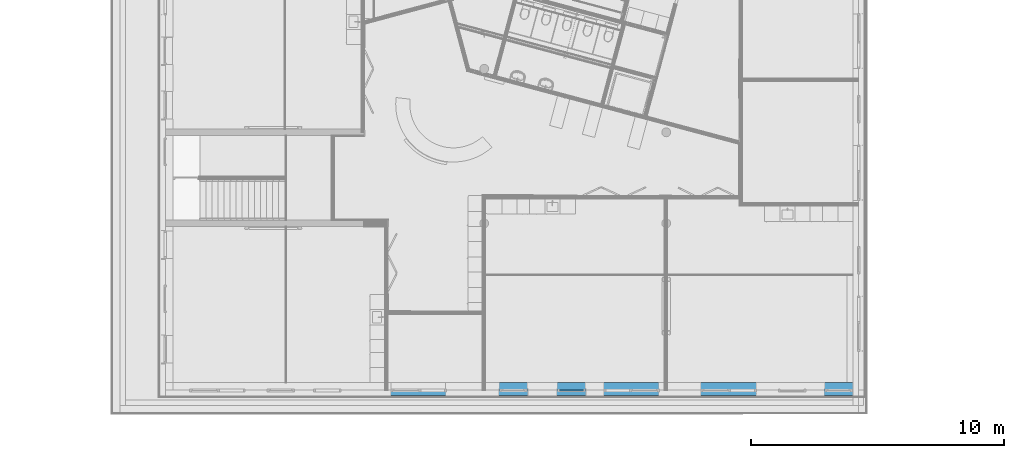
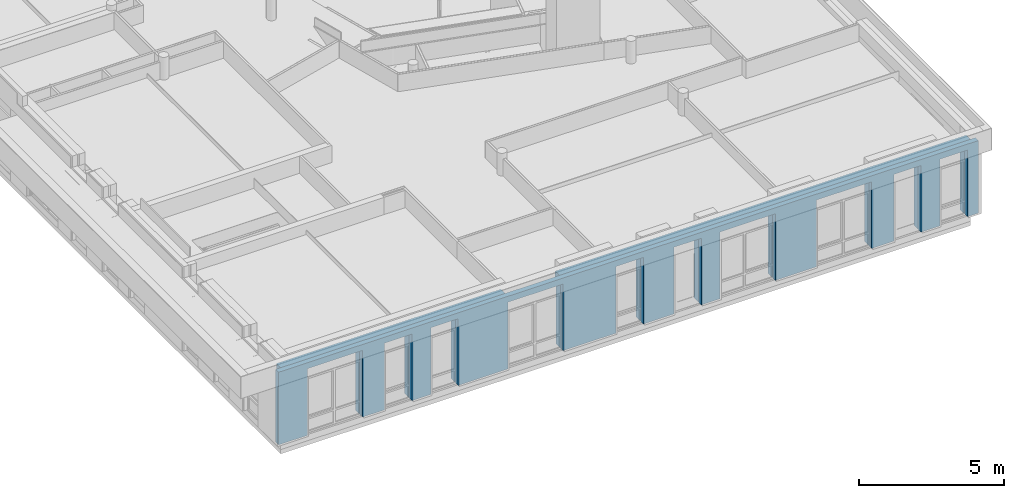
# One storey, part 50 of 167: 2 building element parts, 11 openings, 1 element without a shape of its own.
"""IFC2X3 building model written with IfcOpenShell, lengths in millimetres."""

from ifc_helpers import new_model, entity, si_unit, converted_unit, derived_unit, money_unit, direction, frame, origin_with_axes, place, context, subcontext, project, spatial, faceted_brep, material, type_object, element, aggregate, save


model = new_model("IFC2X3")

# Units and contexts
model_context = context("Model", 3, precision=0.01, world=origin_with_axes(), true_north=direction((0.0, 1.0)))
plan_context = context("Plan", 3, precision=0.01, world=origin_with_axes(), true_north=direction((0.0, 1.0)))
body_context = subcontext(model_context, "Body", "Model", "MODEL_VIEW")
ifc_project = project(units=[si_unit("LENGTHUNIT", "METRE", prefix="MILLI"), si_unit("AREAUNIT", "SQUARE_METRE"), si_unit("VOLUMEUNIT", "CUBIC_METRE"), converted_unit("PLANEANGLEUNIT", "DEGREE", entity("IfcPlaneAngleMeasure", 0.0174532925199), si_unit("PLANEANGLEUNIT", "RADIAN"), dimensions=[0, 0, 0, 0, 0, 0, 0]), si_unit("SOLIDANGLEUNIT", "STERADIAN"), money_unit("EUR"), converted_unit("TIMEUNIT", "Year", entity("IfcTimeMeasure", 31556926.0), si_unit("TIMEUNIT", "SECOND"), dimensions=[0, 0, 1, 0, 0, 0, 0]), si_unit("MASSUNIT", "GRAM", prefix="KILO"), si_unit("THERMODYNAMICTEMPERATUREUNIT", "DEGREE_CELSIUS"), si_unit("LUMINOUSINTENSITYUNIT", "LUMEN"), si_unit("ENERGYUNIT", "JOULE", prefix="MEGA"), derived_unit("THERMALCONDUCTANCEUNIT", [(si_unit("POWERUNIT", "WATT"), 1), (si_unit("LENGTHUNIT", "METRE"), -1), (si_unit("THERMODYNAMICTEMPERATUREUNIT", "KELVIN"), -1)]), derived_unit("SPECIFICHEATCAPACITYUNIT", [(si_unit("ENERGYUNIT", "JOULE"), 1), (si_unit("MASSUNIT", "GRAM", prefix="KILO"), -1), (si_unit("THERMODYNAMICTEMPERATUREUNIT", "KELVIN"), -1)]), derived_unit("MASSDENSITYUNIT", [(si_unit("MASSUNIT", "GRAM", prefix="KILO"), 1), (si_unit("VOLUMEUNIT", "CUBIC_METRE"), -1)])], contexts=[model_context, plan_context])

# Site, building, storey
site_placement = place(None, origin_with_axes())
site = spatial("IfcSite", under=ifc_project, at=site_placement, Name="Site", CompositionType="ELEMENT")
building_placement = place(site_placement, origin_with_axes())
building = spatial("IfcBuilding", under=site, at=building_placement, Name="Naam gebouw", CompositionType="ELEMENT")
storey_placement = place(building_placement, origin_with_axes())
storey = spatial("IfcBuildingStorey", under=building, at=storey_placement, Name="Begane grond", CompositionType="ELEMENT", Elevation=0.0)

# Wall, openings, building element parts
wall_type = type_object("IfcWallType", Name="_TenW_21_Spouwmuur ht-kz-300- RC 4,7 574", PredefinedType="NOTDEFINED")
wall_placement = place(storey_placement, frame((1800.0, 600.0, 0.0), z_axis=(0.0, 0.0, 1.0), x_axis=(1.0, 0.0, 0.0)))
wall = element("IfcWall", 1, at=wall_placement, inside=storey, type_object=wall_type, Name="21_Wand_Wand-x")
opening_1_placement = place(wall_placement, frame((4557.47405593, 0.0, 0.0), z_axis=(0.0, 0.0, 1.0), x_axis=(1.0, 0.0, 0.0)))
element("IfcOpeningElement", 2, at=opening_1_placement, cuts=wall, Name="31_Raam_He-12s", context=body_context, shape_type="Brep", body=[
    faceted_brep([(-542.0, -74.0, 0.0), (-542.0, -74.0, 2800.0), (-542.0, 874.0, 2800.0), (-542.0, 874.0, 0.0), (542.0, -74.0, 0.0), (542.0, -74.0, 2800.0), (542.0, 874.0, 2800.0), (542.0, 874.0, 0.0)], [[[0, 1, 2, 3]], [[0, 4, 5, 1]], [[1, 5, 6, 2]], [[3, 2, 6, 7]], [[4, 0, 3, 7]], [[5, 4, 7, 6]]]),
    faceted_brep([(-542.0, -74.0, 2800.0), (-542.0, -74.0, 0.0), (-542.0, -848.0, 0.0), (-542.0, -848.0, 2800.0), (542.0, -74.0, 2800.0), (542.0, -74.0, 0.0), (542.0, -848.0, 0.0), (542.0, -848.0, 2800.0)], [[[0, 1, 2, 3]], [[0, 4, 5, 1]], [[1, 5, 6, 2]], [[3, 2, 6, 7]], [[4, 0, 3, 7]], [[5, 4, 7, 6]]]),
])
opening_2_placement = place(wall_placement, frame((6395.75405593, 0.0, 0.0), z_axis=(0.0, 0.0, 1.0), x_axis=(1.0, 0.0, 0.0)))
element("IfcOpeningElement", 3, at=opening_2_placement, cuts=wall, Name="31_Raam_He-15", context=body_context, shape_type="Brep", body=[
    faceted_brep([(-542.0, -74.0, 0.0), (-542.0, -74.0, 2800.0), (-542.0, 874.0, 2800.0), (-542.0, 874.0, 0.0), (542.0, -74.0, 0.0), (542.0, -74.0, 2800.0), (542.0, 874.0, 2800.0), (542.0, 874.0, 0.0)], [[[0, 1, 2, 3]], [[0, 4, 5, 1]], [[1, 5, 6, 2]], [[3, 2, 6, 7]], [[4, 0, 3, 7]], [[5, 4, 7, 6]]]),
    faceted_brep([(-542.0, -74.0, 2800.0), (-542.0, -74.0, 0.0), (-542.0, -848.0, 0.0), (-542.0, -848.0, 2800.0), (542.0, -74.0, 2800.0), (542.0, -74.0, 0.0), (542.0, -848.0, 0.0), (542.0, -848.0, 2800.0)], [[[0, 1, 2, 3]], [[0, 4, 5, 1]], [[1, 5, 6, 2]], [[3, 2, 6, 7]], [[4, 0, 3, 7]], [[5, 4, 7, 6]]]),
])
opening_3_placement = place(wall_placement, frame((13748.8740559, 0.0, 0.0), z_axis=(0.0, 0.0, 1.0), x_axis=(1.0, 0.0, 0.0)))
element("IfcOpeningElement", 4, at=opening_3_placement, cuts=wall, Name="31_Raam_He-12", context=body_context, shape_type="Brep", body=[
    faceted_brep([(-542.0, -74.0, 0.0), (-542.0, -74.0, 2800.0), (-542.0, 874.0, 2800.0), (-542.0, 874.0, 0.0), (542.0, -74.0, 0.0), (542.0, -74.0, 2800.0), (542.0, 874.0, 2800.0), (542.0, 874.0, 0.0)], [[[0, 1, 2, 3]], [[0, 4, 5, 1]], [[1, 5, 6, 2]], [[3, 2, 6, 7]], [[4, 0, 3, 7]], [[5, 4, 7, 6]]]),
    faceted_brep([(-542.0, -74.0, 2800.0), (-542.0, -74.0, 0.0), (-542.0, -848.0, 0.0), (-542.0, -848.0, 2800.0), (542.0, -74.0, 2800.0), (542.0, -74.0, 0.0), (542.0, -848.0, 0.0), (542.0, -848.0, 2800.0)], [[[0, 1, 2, 3]], [[0, 4, 5, 1]], [[1, 5, 6, 2]], [[3, 2, 6, 7]], [[4, 0, 3, 7]], [[5, 4, 7, 6]]]),
])
opening_4_placement = place(wall_placement, frame((26616.8340559, 0.0, 0.0), z_axis=(0.0, 0.0, 1.0), x_axis=(1.0, 0.0, 0.0)))
element("IfcOpeningElement", 5, at=opening_4_placement, cuts=wall, Name="31_Raam_He-12", context=body_context, shape_type="Brep", body=[
    faceted_brep([(-542.0, -74.0, 0.0), (-542.0, -74.0, 2800.0), (-542.0, 874.0, 2800.0), (-542.0, 874.0, 0.0), (542.0, -74.0, 0.0), (542.0, -74.0, 2800.0), (542.0, 874.0, 2800.0), (542.0, 874.0, 0.0)], [[[0, 1, 2, 3]], [[0, 4, 5, 1]], [[1, 5, 6, 2]], [[3, 2, 6, 7]], [[4, 0, 3, 7]], [[5, 4, 7, 6]]]),
    faceted_brep([(-542.0, -74.0, 2800.0), (-542.0, -74.0, 0.0), (-542.0, -848.0, 0.0), (-542.0, -848.0, 2800.0), (542.0, -74.0, 2800.0), (542.0, -74.0, 0.0), (542.0, -848.0, 0.0), (542.0, -848.0, 2800.0)], [[[0, 1, 2, 3]], [[0, 4, 5, 1]], [[1, 5, 6, 2]], [[3, 2, 6, 7]], [[4, 0, 3, 7]], [[5, 4, 7, 6]]]),
])
opening_5_placement = place(wall_placement, frame((2044.87905593, 0.0, 0.0), z_axis=(0.0, 0.0, 1.0), x_axis=(1.0, 0.0, 0.0)))
element("IfcOpeningElement", 6, at=opening_5_placement, cuts=wall, Name="31_Raam_He-11", context=body_context, shape_type="Brep", body=[
    faceted_brep([(-1095.0, -154.0, 2800.0), (-1095.0, -69.0, 2800.0), (1095.0, -69.0, 2800.0), (1095.0, -154.0, 2800.0), (-1095.0, -154.0, 2885.0), (-1095.0, -69.0, 2885.0), (1095.0, -69.0, 2885.0), (1095.0, -154.0, 2885.0)], [[[0, 1, 2, 3]], [[0, 4, 5, 1]], [[1, 5, 6, 2]], [[3, 2, 6, 7]], [[4, 0, 3, 7]], [[5, 4, 7, 6]]]),
    faceted_brep([(-1095.0, -74.0, 0.0), (-1095.0, -74.0, 2800.0), (-1095.0, 874.0, 2800.0), (-1095.0, 874.0, 0.0), (1095.0, -74.0, 0.0), (1095.0, -74.0, 2800.0), (1095.0, 874.0, 2800.0), (1095.0, 874.0, 0.0)], [[[0, 1, 2, 3]], [[0, 4, 5, 1]], [[1, 5, 6, 2]], [[3, 2, 6, 7]], [[4, 0, 3, 7]], [[5, 4, 7, 6]]]),
    faceted_brep([(-1095.0, -74.0, 2800.0), (-1095.0, -74.0, 0.0), (-1095.0, -848.0, 0.0), (-1095.0, -848.0, 2800.0), (1095.0, -74.0, 2800.0), (1095.0, -74.0, 0.0), (1095.0, -848.0, 0.0), (1095.0, -848.0, 2800.0)], [[[0, 1, 2, 3]], [[0, 4, 5, 1]], [[1, 5, 6, 2]], [[3, 2, 6, 7]], [[4, 0, 3, 7]], [[5, 4, 7, 6]]]),
])
opening_6_placement = place(wall_placement, frame((22265.9340559, 0.0, 0.0), z_axis=(0.0, 0.0, 1.0), x_axis=(1.0, 0.0, 0.0)))
element("IfcOpeningElement", 7, at=opening_6_placement, cuts=wall, Name="31_Raam_He-11", context=body_context, shape_type="Brep", body=[
    faceted_brep([(-1095.0, -154.0, 2800.0), (-1095.0, -69.0, 2800.0), (1095.0, -69.0, 2800.0), (1095.0, -154.0, 2800.0), (-1095.0, -154.0, 2885.0), (-1095.0, -69.0, 2885.0), (1095.0, -69.0, 2885.0), (1095.0, -154.0, 2885.0)], [[[0, 1, 2, 3]], [[0, 4, 5, 1]], [[1, 5, 6, 2]], [[3, 2, 6, 7]], [[4, 0, 3, 7]], [[5, 4, 7, 6]]]),
    faceted_brep([(-1095.0, -74.0, 0.0), (-1095.0, -74.0, 2800.0), (-1095.0, 874.0, 2800.0), (-1095.0, 874.0, 0.0), (1095.0, -74.0, 0.0), (1095.0, -74.0, 2800.0), (1095.0, 874.0, 2800.0), (1095.0, 874.0, 0.0)], [[[0, 1, 2, 3]], [[0, 4, 5, 1]], [[1, 5, 6, 2]], [[3, 2, 6, 7]], [[4, 0, 3, 7]], [[5, 4, 7, 6]]]),
    faceted_brep([(-1095.0, -74.0, 2800.0), (-1095.0, -74.0, 0.0), (-1095.0, -848.0, 0.0), (-1095.0, -848.0, 2800.0), (1095.0, -74.0, 2800.0), (1095.0, -74.0, 0.0), (1095.0, -848.0, 0.0), (1095.0, -848.0, 2800.0)], [[[0, 1, 2, 3]], [[0, 4, 5, 1]], [[1, 5, 6, 2]], [[3, 2, 6, 7]], [[4, 0, 3, 7]], [[5, 4, 7, 6]]]),
])
opening_7_placement = place(wall_placement, frame((10010.7590559, 0.0, 0.0), z_axis=(0.0, 0.0, 1.0), x_axis=(1.0, 0.0, 0.0)))
element("IfcOpeningElement", 8, at=opening_7_placement, cuts=wall, Name="31_Raam_He-11", context=body_context, shape_type="Brep", body=[
    faceted_brep([(-1095.0, -154.0, 2800.0), (-1095.0, -69.0, 2800.0), (1095.0, -69.0, 2800.0), (1095.0, -154.0, 2800.0), (-1095.0, -154.0, 2885.0), (-1095.0, -69.0, 2885.0), (1095.0, -69.0, 2885.0), (1095.0, -154.0, 2885.0)], [[[0, 1, 2, 3]], [[0, 4, 5, 1]], [[1, 5, 6, 2]], [[3, 2, 6, 7]], [[4, 0, 3, 7]], [[5, 4, 7, 6]]]),
    faceted_brep([(-1095.0, -74.0, 0.0), (-1095.0, -74.0, 2800.0), (-1095.0, 874.0, 2800.0), (-1095.0, 874.0, 0.0), (1095.0, -74.0, 0.0), (1095.0, -74.0, 2800.0), (1095.0, 874.0, 2800.0), (1095.0, 874.0, 0.0)], [[[0, 1, 2, 3]], [[0, 4, 5, 1]], [[1, 5, 6, 2]], [[3, 2, 6, 7]], [[4, 0, 3, 7]], [[5, 4, 7, 6]]]),
    faceted_brep([(-1095.0, -74.0, 2800.0), (-1095.0, -74.0, 0.0), (-1095.0, -848.0, 0.0), (-1095.0, -848.0, 2800.0), (1095.0, -74.0, 2800.0), (1095.0, -74.0, 0.0), (1095.0, -848.0, 0.0), (1095.0, -848.0, 2800.0)], [[[0, 1, 2, 3]], [[0, 4, 5, 1]], [[1, 5, 6, 2]], [[3, 2, 6, 7]], [[4, 0, 3, 7]], [[5, 4, 7, 6]]]),
])
opening_8_placement = place(wall_placement, frame((18436.2090559, 0.0, 0.0), z_axis=(0.0, 0.0, 1.0), x_axis=(1.0, 0.0, 0.0)))
element("IfcOpeningElement", 9, at=opening_8_placement, cuts=wall, Name="31_Raam_He-11s", context=body_context, shape_type="Brep", body=[
    faceted_brep([(-1095.0, -154.0, 2800.0), (-1095.0, -69.0, 2800.0), (1095.0, -69.0, 2800.0), (1095.0, -154.0, 2800.0), (-1095.0, -154.0, 2885.0), (-1095.0, -69.0, 2885.0), (1095.0, -69.0, 2885.0), (1095.0, -154.0, 2885.0)], [[[0, 1, 2, 3]], [[0, 4, 5, 1]], [[1, 5, 6, 2]], [[3, 2, 6, 7]], [[4, 0, 3, 7]], [[5, 4, 7, 6]]]),
    faceted_brep([(1095.0, 874.0, 0.0), (1095.0, 874.0, 2800.0), (1095.0, -74.0, 2800.0), (1095.0, -74.0, 0.0), (-1095.0, 874.0, 0.0), (-1095.0, 874.0, 2800.0), (-1095.0, -74.0, 2800.0), (-1095.0, -74.0, 0.0)], [[[0, 1, 2, 3]], [[0, 4, 5, 1]], [[1, 5, 6, 2]], [[3, 2, 6, 7]], [[4, 0, 3, 7]], [[5, 4, 7, 6]]]),
    faceted_brep([(1095.0, -848.0, 2800.0), (1095.0, -848.0, 0.0), (1095.0, -74.0, 0.0), (1095.0, -74.0, 2800.0), (-1095.0, -848.0, 2800.0), (-1095.0, -848.0, 0.0), (-1095.0, -74.0, 0.0), (-1095.0, -74.0, 2800.0)], [[[0, 1, 2, 3]], [[0, 4, 5, 1]], [[1, 5, 6, 2]], [[3, 2, 6, 7]], [[4, 0, 3, 7]], [[5, 4, 7, 6]]]),
])
opening_9_placement = place(wall_placement, frame((16047.4640559, 0.0, 0.0), z_axis=(0.0, 0.0, 1.0), x_axis=(1.0, 0.0, 0.0)))
element("IfcOpeningElement", 10, at=opening_9_placement, cuts=wall, Name="32_Deur_He-06", context=body_context, shape_type="Brep", body=[
    faceted_brep([(-542.0, 874.0, 2800.0), (-542.0, 874.0, 0.0), (-542.0, -74.0, 0.0), (-542.0, -74.0, 2800.0), (542.0, 874.0, 2800.0), (542.0, 874.0, 0.0), (542.0, -74.0, 0.0), (542.0, -74.0, 2800.0)], [[[0, 1, 2, 3]], [[0, 4, 5, 1]], [[1, 5, 6, 2]], [[3, 2, 6, 7]], [[4, 0, 3, 7]], [[5, 4, 7, 6]]]),
    faceted_brep([(-542.0, -848.0, 0.0), (-542.0, -848.0, 2800.0), (-542.0, -74.0, 2800.0), (-542.0, -74.0, 0.0), (542.0, -848.0, 0.0), (542.0, -848.0, 2800.0), (542.0, -74.0, 2800.0), (542.0, -74.0, 0.0)], [[[0, 1, 2, 3]], [[0, 4, 5, 1]], [[1, 5, 6, 2]], [[3, 2, 6, 7]], [[4, 0, 3, 7]], [[5, 4, 7, 6]]]),
])
opening_10_placement = place(wall_placement, frame((24779.2940559, 0.0, 0.0), z_axis=(0.0, 0.0, 1.0), x_axis=(1.0, 0.0, 0.0)))
element("IfcOpeningElement", 11, at=opening_10_placement, cuts=wall, Name="32_Deur_He-06", context=body_context, shape_type="Brep", body=[
    faceted_brep([(-542.0, 874.0, 2800.0), (-542.0, 874.0, 0.0), (-542.0, -74.0, 0.0), (-542.0, -74.0, 2800.0), (542.0, 874.0, 2800.0), (542.0, 874.0, 0.0), (542.0, -74.0, 0.0), (542.0, -74.0, 2800.0)], [[[0, 1, 2, 3]], [[0, 4, 5, 1]], [[1, 5, 6, 2]], [[3, 2, 6, 7]], [[4, 0, 3, 7]], [[5, 4, 7, 6]]]),
    faceted_brep([(-542.0, -848.0, 0.0), (-542.0, -848.0, 2800.0), (-542.0, -74.0, 2800.0), (-542.0, -74.0, 0.0), (542.0, -848.0, 0.0), (542.0, -848.0, 2800.0), (542.0, -74.0, 2800.0), (542.0, -74.0, 0.0)], [[[0, 1, 2, 3]], [[0, 4, 5, 1]], [[1, 5, 6, 2]], [[3, 2, 6, 7]], [[4, 0, 3, 7]], [[5, 4, 7, 6]]]),
])
opening_11_placement = place(wall_placement, frame((-1800.0, -600.0, 0.0), z_axis=(0.0, 0.0, 1.0), x_axis=(1.0, 0.0, 0.0)))
element("IfcOpeningElement", 12, at=opening_11_placement, cuts=wall, Name="_Lege opening_Doorvoer-x", context=body_context, shape_type="Brep", body=[
    faceted_brep([(10715.7590559, 600.0, 2800.0), (10715.7590559, 600.0, 3050.0), (10715.7590559, 1474.0, 3050.0), (10715.7590559, 1474.0, 2800.0), (12875.6790559, 600.0, 2800.0), (12875.6790559, 600.0, 3050.0), (12875.6790559, 1474.0, 3050.0), (12875.6790559, 1474.0, 2800.0)], [[[0, 1, 2, 3]], [[0, 4, 5, 1]], [[1, 5, 6, 2]], [[3, 2, 6, 7]], [[4, 0, 3, 7]], [[5, 4, 7, 6]]]),
])
ifc_material_1 = material(Name="Steen - Kalkzandsteen C")
building_element_part_1_placement = place(wall_placement, origin_with_axes())
building_element_part_1 = element("IfcBuildingElementPart", 13, at=building_element_part_1_placement, material=ifc_material_1, Name="Steen - Kalkzandsteen C", context=body_context, shape_type="Brep", body=[
    faceted_brep([(24237.2940559, 300.0, 2800.0), (24237.2940559, 300.0, 0.0), (23360.9340559, 300.0, 0.0), (23360.9340559, 300.0, 2800.0), (21170.9340559, 300.0, 2800.0), (21170.9340559, 300.0, 0.0), (19531.2090559, 300.0, 0.0), (19531.2090559, 300.0, 2800.0), (17341.2090559, 300.0, 2800.0), (17341.2090559, 300.0, 0.0), (16589.4640559, 300.0, 0.0), (16589.4640559, 300.0, 2800.0), (15505.4640559, 300.0, 2800.0), (15505.4640559, 300.0, 0.0), (14290.8740559, 300.0, 0.0), (14290.8740559, 300.0, 2800.0), (13206.8740559, 300.0, 2800.0), (13206.8740559, 300.0, 0.0), (11105.7590559, 300.0, 0.0), (11105.7590559, 300.0, 2800.0), (11075.6790559, 300.0, 2800.0), (11075.6790559, 300.0, 3050.0), (27400.0, 300.0, 3050.0), (27400.0, 300.0, 0.0), (27158.8340559, 300.0, 0.0), (27158.8340559, 300.0, 2800.0), (26074.8340559, 300.0, 2800.0), (26074.8340559, 300.0, 0.0), (25321.2940559, 300.0, 0.0), (25321.2940559, 300.0, 2800.0), (24237.2940559, 0.0, 2800.0), (24237.2940559, 0.0, 0.0), (23360.9340559, 0.0, 0.0), (23360.9340559, 0.0, 2800.0), (21170.9340559, 0.0, 2800.0), (21170.9340559, 0.0, 0.0), (19531.2090559, 0.0, 0.0), (19531.2090559, 0.0, 2800.0), (17341.2090559, 0.0, 2800.0), (17341.2090559, 0.0, 0.0), (16589.4640559, 0.0, 0.0), (16589.4640559, 0.0, 2800.0), (15505.4640559, 0.0, 2800.0), (15505.4640559, 0.0, 0.0), (14290.8740559, 0.0, 0.0), (14290.8740559, 0.0, 2800.0), (13206.8740559, 0.0, 2800.0), (13206.8740559, 0.0, 0.0), (11105.7590559, 0.0, 0.0), (11105.7590559, 0.0, 2800.0), (11075.6790559, 0.0, 2800.0), (11075.6790559, 0.0, 3050.0), (27400.0, 0.0, 3050.0), (27400.0, 0.0, 0.0), (27158.8340559, 0.0, 0.0), (27158.8340559, 0.0, 2800.0), (26074.8340559, 0.0, 2800.0), (26074.8340559, 0.0, 0.0), (25321.2940559, 0.0, 0.0), (25321.2940559, 0.0, 2800.0)], [[[0, 1, 2, 3, 4, 5, 6, 7, 8, 9, 10, 11, 12, 13, 14, 15, 16, 17, 18, 19, 20, 21, 22, 23, 24, 25, 26, 27, 28, 29]], [[1, 0, 30, 31]], [[1, 31, 32, 2]], [[3, 2, 32, 33]], [[4, 3, 33, 34]], [[5, 4, 34, 35]], [[5, 35, 36, 6]], [[36, 37, 7, 6]], [[37, 38, 8, 7]], [[38, 39, 9, 8]], [[10, 9, 39, 40]], [[10, 40, 41, 11]], [[11, 41, 42, 12]], [[12, 42, 43, 13]], [[43, 44, 14, 13]], [[45, 15, 14, 44]], [[46, 16, 15, 45]], [[47, 17, 16, 46]], [[47, 48, 18, 17]], [[49, 19, 18, 48]], [[50, 20, 19, 49]], [[21, 20, 50, 51]], [[21, 51, 52, 22]], [[22, 52, 53, 23]], [[23, 53, 54, 24]], [[54, 55, 25, 24]], [[55, 56, 26, 25]], [[56, 57, 27, 26]], [[58, 28, 27, 57]], [[29, 28, 58, 59]], [[0, 29, 59, 30]], [[59, 58, 57, 56, 55, 54, 53, 52, 51, 50, 49, 48, 47, 46, 45, 44, 43, 42, 41, 40, 39, 38, 37, 36, 35, 34, 33, 32, 31, 30]]]),
    faceted_brep([(8915.75905593, 300.0, 3050.0), (8915.75905593, 0.0, 3050.0), (8915.75905593, 0.0, 2800.0), (8915.75905593, 300.0, 2800.0), (0.0, 300.0, 3050.0), (0.0, 0.0, 3050.0), (5099.47405593, 0.0, 2800.0), (5099.47405593, 0.0, 0.0), (5853.75405593, 0.0, 0.0), (5853.75405593, 0.0, 2800.0), (6937.75405593, 0.0, 2800.0), (6937.75405593, 0.0, 0.0), (8915.75905593, 0.0, 0.0), (0.0, 0.0, 0.0), (949.879055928, 0.0, 0.0), (949.879055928, 0.0, 2800.0), (3139.87905593, 0.0, 2800.0), (3139.87905593, 0.0, 0.0), (4015.47405593, 0.0, 0.0), (4015.47405593, 0.0, 2800.0), (8915.75905593, 300.0, 0.0), (3139.87905593, 300.0, 2800.0), (949.879055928, 300.0, 2800.0), (949.879055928, 300.0, 0.0), (0.0, 300.0, 0.0), (6937.75405593, 300.0, 0.0), (6937.75405593, 300.0, 2800.0), (5853.75405593, 300.0, 2800.0), (5853.75405593, 300.0, 0.0), (5099.47405593, 300.0, 0.0), (5099.47405593, 300.0, 2800.0), (4015.47405593, 300.0, 2800.0), (4015.47405593, 300.0, 0.0), (3139.87905593, 300.0, 0.0)], [[[0, 1, 2, 3]], [[4, 5, 1, 0]], [[6, 7, 8, 9, 10, 11, 12, 2, 1, 5, 13, 14, 15, 16, 17, 18, 19]], [[2, 12, 20, 3]], [[21, 22, 23, 24, 4, 0, 3, 20, 25, 26, 27, 28, 29, 30, 31, 32, 33]], [[5, 4, 24, 13]], [[30, 29, 7, 6]], [[29, 28, 8, 7]], [[8, 28, 27, 9]], [[9, 27, 26, 10]], [[10, 26, 25, 11]], [[11, 25, 20, 12]], [[23, 14, 13, 24]], [[23, 22, 15, 14]], [[22, 21, 16, 15]], [[21, 33, 17, 16]], [[17, 33, 32, 18]], [[32, 31, 19, 18]], [[31, 30, 6, 19]]]),
])
ifc_material_2 = material(Name="Isolatie - Steenwol zacht")
building_element_part_2_placement = place(wall_placement, origin_with_axes())
building_element_part_2 = element("IfcBuildingElementPart", 14, at=building_element_part_2_placement, material=ifc_material_2, Name="Isolatie - Steenwol zacht", context=body_context, shape_type="Brep", body=[
    faceted_brep([(24237.2940559, 0.0, 2800.0), (24237.2940559, 0.0, 0.0), (23360.9340559, 0.0, 0.0), (23360.9340559, 0.0, 2800.0), (21170.9340559, 0.0, 2800.0), (21170.9340559, 0.0, 0.0), (19531.2090559, 0.0, 0.0), (19531.2090559, 0.0, 2800.0), (17341.2090559, 0.0, 2800.0), (17341.2090559, 0.0, 0.0), (16589.4640559, 0.0, 0.0), (16589.4640559, 0.0, 2800.0), (15505.4640559, 0.0, 2800.0), (15505.4640559, 0.0, 0.0), (14290.8740559, 0.0, 0.0), (14290.8740559, 0.0, 2800.0), (13206.8740559, 0.0, 2800.0), (13206.8740559, 0.0, 0.0), (11105.7590559, 0.0, 0.0), (11105.7590559, 0.0, 2800.0), (8915.75905593, 0.0, 2800.0), (8915.75905593, 0.0, 0.0), (6937.75405593, 0.0, 0.0), (6937.75405593, 0.0, 2800.0), (5853.75405593, 0.0, 2800.0), (5853.75405593, 0.0, 0.0), (5099.47405593, 0.0, 0.0), (5099.47405593, 0.0, 2800.0), (4015.47405593, 0.0, 2800.0), (4015.47405593, 0.0, 0.0), (3139.87905593, 0.0, 0.0), (3139.87905593, 0.0, 2800.0), (949.879055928, 0.0, 2800.0), (949.879055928, 0.0, 0.0), (-200.0, 0.0, 0.0), (-200.0, 0.0, 3050.0), (27600.0, 0.0, 3050.0), (27600.0, 0.0, 0.0), (27158.8340559, 0.0, 0.0), (27158.8340559, 0.0, 2800.0), (26074.8340559, 0.0, 2800.0), (26074.8340559, 0.0, 0.0), (25321.2940559, 0.0, 0.0), (25321.2940559, 0.0, 2800.0), (24237.2940559, -74.0, 2800.0), (24237.2940559, -74.0, 0.0), (24237.2940559, -200.0, 0.0), (23360.9340559, -200.0, 0.0), (23360.9340559, -74.0, 0.0), (23360.9340559, -74.0, 2800.0), (23360.9340559, -69.0, 2800.0), (21170.9340559, -69.0, 2800.0), (21170.9340559, -74.0, 2800.0), (21170.9340559, -74.0, 0.0), (21170.9340559, -200.0, 0.0), (19531.2090559, -200.0, 0.0), (19531.2090559, -74.0, 0.0), (19531.2090559, -74.0, 2800.0), (19531.2090559, -69.0, 2800.0), (17341.2090559, -69.0, 2800.0), (17341.2090559, -74.0, 2800.0), (17341.2090559, -74.0, 0.0), (16589.4640559, -74.0, 0.0), (17341.2090559, -200.0, 0.0), (16589.4640559, -200.0, 0.0), (16589.4640559, -74.0, 2800.0), (15505.4640559, -74.0, 2800.0), (15505.4640559, -74.0, 0.0), (15505.4640559, -200.0, 0.0), (14290.8740559, -200.0, 0.0), (14290.8740559, -74.0, 0.0), (14290.8740559, -74.0, 2800.0), (13206.8740559, -74.0, 2800.0), (13206.8740559, -74.0, 0.0), (11105.7590559, -74.0, 0.0), (13206.8740559, -200.0, 0.0), (11105.7590559, -200.0, 0.0), (11105.7590559, -74.0, 2800.0), (11105.7590559, -69.0, 2800.0), (8915.75905593, -69.0, 2800.0), (8915.75905593, -74.0, 2800.0), (8915.75905593, -74.0, 0.0), (8915.75905593, -200.0, 0.0), (6937.75405593, -200.0, 0.0), (6937.75405593, -74.0, 0.0), (6937.75405593, -74.0, 2800.0), (5853.75405593, -74.0, 2800.0), (5853.75405593, -74.0, 0.0), (5853.75405593, -200.0, 0.0), (5099.47405593, -200.0, 0.0), (5099.47405593, -74.0, 0.0), (5099.47405593, -74.0, 2800.0), (4015.47405593, -74.0, 2800.0), (4015.47405593, -74.0, 0.0), (3139.87905593, -74.0, 0.0), (4015.47405593, -200.0, 0.0), (3139.87905593, -200.0, 0.0), (3139.87905593, -69.0, 2800.0), (3139.87905593, -74.0, 2800.0), (949.879055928, -69.0, 2800.0), (949.879055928, -74.0, 2800.0), (949.879055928, -74.0, 0.0), (-200.0, -200.0, 0.0), (949.879055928, -200.0, 0.0), (-200.0, -200.0, 3050.0), (27600.0, -200.0, 3050.0), (27600.0, -200.0, 0.0), (27158.8340559, -200.0, 0.0), (27158.8340559, -74.0, 0.0), (27158.8340559, -74.0, 2800.0), (26074.8340559, -74.0, 2800.0), (26074.8340559, -74.0, 0.0), (25321.2940559, -74.0, 0.0), (26074.8340559, -200.0, 0.0), (25321.2940559, -200.0, 0.0), (25321.2940559, -74.0, 2800.0), (24237.2940559, -200.0, 2800.0), (25321.2940559, -200.0, 2800.0), (26074.8340559, -200.0, 2800.0), (27158.8340559, -200.0, 2800.0), (949.879055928, -200.0, 2800.0), (3139.87905593, -200.0, 2800.0), (4015.47405593, -200.0, 2800.0), (5099.47405593, -200.0, 2800.0), (5853.75405593, -200.0, 2800.0), (6937.75405593, -200.0, 2800.0), (8915.75905593, -200.0, 2800.0), (11105.7590559, -200.0, 2800.0), (13206.8740559, -200.0, 2800.0), (14290.8740559, -200.0, 2800.0), (15505.4640559, -200.0, 2800.0), (16589.4640559, -200.0, 2800.0), (17341.2090559, -200.0, 2800.0), (19531.2090559, -200.0, 2800.0), (21170.9340559, -200.0, 2800.0), (23360.9340559, -200.0, 2800.0), (23360.9340559, -154.0, 2800.0), (23360.9340559, -154.0, 2885.0), (23360.9340559, -69.0, 2885.0), (21170.9340559, -69.0, 2885.0), (21170.9340559, -154.0, 2885.0), (21170.9340559, -154.0, 2800.0), (19531.2090559, -154.0, 2800.0), (19531.2090559, -154.0, 2885.0), (19531.2090559, -69.0, 2885.0), (17341.2090559, -69.0, 2885.0), (17341.2090559, -154.0, 2885.0), (17341.2090559, -154.0, 2800.0), (11105.7590559, -154.0, 2800.0), (11105.7590559, -69.0, 2885.0), (11105.7590559, -154.0, 2885.0), (8915.75905593, -69.0, 2885.0), (8915.75905593, -154.0, 2800.0), (8915.75905593, -154.0, 2885.0), (3139.87905593, -154.0, 2800.0), (3139.87905593, -154.0, 2885.0), (3139.87905593, -69.0, 2885.0), (949.879055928, -69.0, 2885.0), (949.879055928, -154.0, 2800.0), (949.879055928, -154.0, 2885.0)], [[[0, 1, 2, 3, 4, 5, 6, 7, 8, 9, 10, 11, 12, 13, 14, 15, 16, 17, 18, 19, 20, 21, 22, 23, 24, 25, 26, 27, 28, 29, 30, 31, 32, 33, 34, 35, 36, 37, 38, 39, 40, 41, 42, 43]], [[1, 0, 44, 45]], [[1, 45, 46, 47, 48, 2]], [[49, 50, 3, 2, 48]], [[4, 3, 50, 51]], [[51, 52, 53, 5, 4]], [[53, 54, 55, 56, 6, 5]], [[6, 56, 57, 58, 7]], [[58, 59, 8, 7]], [[9, 8, 59, 60, 61]], [[62, 10, 9, 61, 63, 64]], [[62, 65, 11, 10]], [[65, 66, 12, 11]], [[66, 67, 13, 12]], [[13, 67, 68, 69, 70, 14]], [[70, 71, 15, 14]], [[71, 72, 16, 15]], [[72, 73, 17, 16]], [[74, 18, 17, 73, 75, 76]], [[74, 77, 78, 19, 18]], [[19, 78, 79, 20]], [[20, 79, 80, 81, 21]], [[21, 81, 82, 83, 84, 22]], [[23, 22, 84, 85]], [[24, 23, 85, 86]], [[25, 24, 86, 87]], [[25, 87, 88, 89, 90, 26]], [[90, 91, 27, 26]], [[91, 92, 28, 27]], [[92, 93, 29, 28]], [[94, 30, 29, 93, 95, 96]], [[97, 31, 30, 94, 98]], [[99, 32, 31, 97]], [[100, 101, 33, 32, 99]], [[102, 34, 33, 101, 103]], [[104, 35, 34, 102]], [[35, 104, 105, 36]], [[37, 36, 105, 106]], [[37, 106, 107, 108, 38]], [[39, 38, 108, 109]], [[40, 39, 109, 110]], [[41, 40, 110, 111]], [[112, 42, 41, 111, 113, 114]], [[43, 42, 112, 115]], [[0, 43, 115, 44]], [[45, 44, 116, 46]], [[47, 46, 116, 117, 114, 113, 118, 119, 107, 106, 105, 104, 102, 103, 120, 121, 96, 95, 122, 123, 89, 88, 124, 125, 83, 82, 126, 127, 76, 75, 128, 129, 69, 68, 130, 131, 64, 63, 132, 133, 55, 54, 134, 135]], [[136, 49, 48, 47, 135]], [[50, 49, 136, 137, 138]], [[138, 139, 51, 50]], [[52, 51, 139, 140, 141]], [[52, 141, 134, 54, 53]], [[55, 133, 142, 57, 56]], [[143, 144, 58, 57, 142]], [[59, 58, 144, 145]], [[146, 147, 60, 59, 145]], [[63, 61, 60, 147, 132]], [[64, 131, 65, 62]], [[131, 130, 66, 65]], [[130, 68, 67, 66]], [[69, 129, 71, 70]], [[129, 128, 72, 71]], [[128, 75, 73, 72]], [[127, 148, 77, 74, 76]], [[149, 78, 77, 148, 150]], [[151, 79, 78, 149]], [[152, 80, 79, 151, 153]], [[81, 80, 152, 126, 82]], [[85, 84, 83, 125]], [[86, 85, 125, 124]], [[87, 86, 124, 88]], [[89, 123, 91, 90]], [[123, 122, 92, 91]], [[122, 95, 93, 92]], [[98, 94, 96, 121, 154]], [[98, 154, 155, 156, 97]], [[97, 156, 157, 99]], [[158, 120, 103, 101, 100]], [[99, 157, 159, 158, 100]], [[109, 108, 107, 119]], [[110, 109, 119, 118]], [[111, 110, 118, 113]], [[115, 112, 114, 117]], [[44, 115, 117, 116]], [[154, 121, 120, 158]], [[126, 152, 148, 127]], [[147, 142, 133, 132]], [[135, 134, 141, 136]], [[140, 137, 136, 141]], [[140, 139, 138, 137]], [[146, 145, 144, 143]], [[142, 147, 146, 143]], [[150, 148, 152, 153]], [[151, 149, 150, 153]], [[158, 159, 155, 154]], [[155, 159, 157, 156]]]),
])
aggregate(wall, [building_element_part_1, building_element_part_2])

save(model, "model.ifc")
